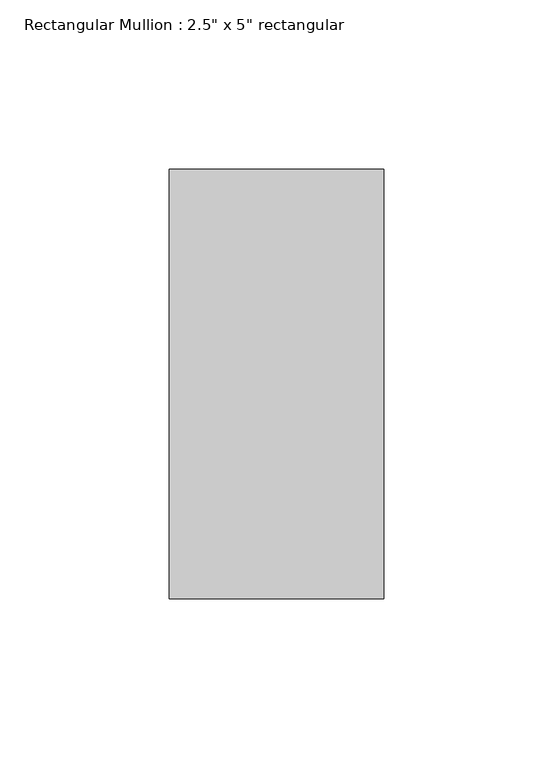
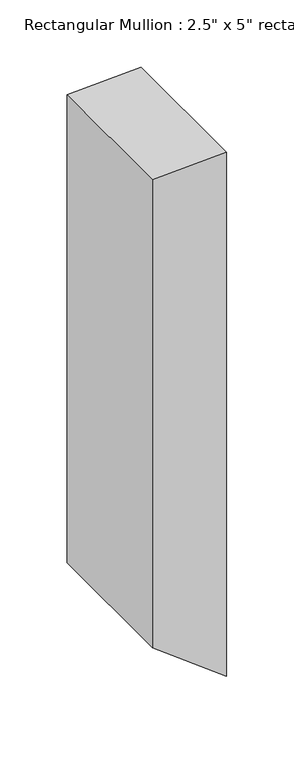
"""IFC4 building model written with IfcOpenShell, lengths in millimetres: member geometry."""

from ifc_helpers import new_model, si_unit, frame, origin, place, context, project, spatial, polyline, outline, extrude, source, transform, mapped, element, save


def member_9c668a66(model_context):
    return source(origin(), model_context, "Body", "SweptSolid", [
        extrude(outline(polyline([(0.0, 0.0), (-2.508042, -63.5), (-426.7867741, -63.5), (-474.9039983, 0.0), (0.0, 0.0)])), frame((0.0, -63.5, 0.0), z_axis=(0.0, 1.0, 0.0), x_axis=(0.0, 0.0, 1.0)), (0.0, 0.0, 1.0), 127.0),
    ])


if __name__ == "__main__":
    model = new_model("IFC4")
    model_context = context("Model", 3, world=origin())
    ifc_project = project(units=[si_unit("LENGTHUNIT", "METRE", prefix="MILLI")], contexts=[model_context])
    site = spatial("IfcSite", under=ifc_project)
    building = spatial("IfcBuilding", under=site)
    placement = place(None, origin())
    member_shape = member_9c668a66(model_context)
    element("IfcMember", 1, ObjectType="Rectangular Mullion : 2.5\" x 5\" rectangular", at=placement, inside=building, context=model_context, shape_type="MappedRepresentation", body=[
        mapped(member_shape, transform((0.0, 0.0, 0.0), x_axis=(1.0, 0.0, 0.0), y_axis=(0.0, 1.0, 0.0), z_axis=(0.0, 0.0, 1.0))),
    ])
    save(model, "model.ifc")
